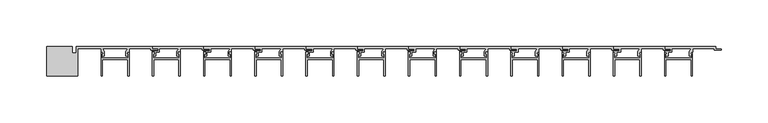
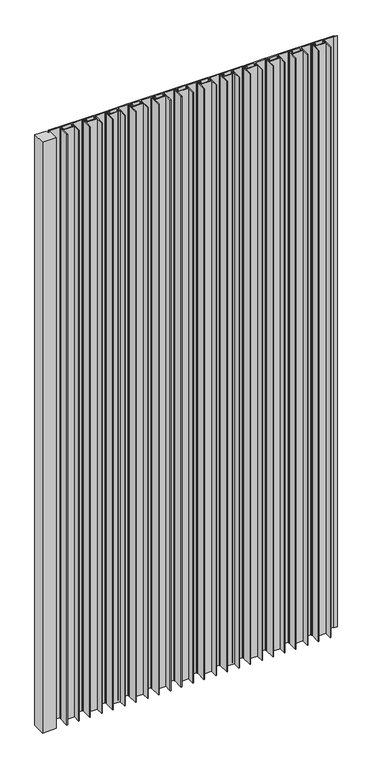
"""IFC4 building model written with IfcOpenShell, lengths in millimetres: proxy geometry, A_GEN_LINE_Small Base_Blade Cap_Corner Angle : A_GEN_LINE_Small Base_Blade Cap_Corner Angle."""

import ifcopenshell
import ifcopenshell.guid

model = None  # the IFC model being written
_history = None  # IfcOwnerHistory: only IFC2X3 demands one
_inside = {}  # id of a spatial element -> (the spatial element, [elements in it])
_under = {}  # id of a project, library or spatial element -> (it, [spatial elements below it])
_declared = {}  # id of a project -> (the project, [libraries it declares])
_typed = {}  # id of a type object -> (the type object, [elements of that type])
_made_of = {}  # id of a material, layer set ... -> (it, [elements and type objects made of it])


def new_model(schema):
    """Start an empty IFC model of exactly this schema.

    Asked for "IFC4X3", IfcOpenShell would pick the latest addendum, in which some entities
    have other attributes; the version numbers below select the first issue.
    IFC2X3 requires an IfcOwnerHistory on every rooted entity: one is made here for all.
    """
    global model, _history
    if schema == "IFC4X3":
        model = ifcopenshell.file(schema_version=(4, 3, 0, 0))
    else:
        model = ifcopenshell.file(schema=schema)
    _inside.clear()
    _under.clear()
    _declared.clear()
    _typed.clear()
    _made_of.clear()
    _history = None
    if model.schema == "IFC2X3":
        org = make("IfcOrganization", Name="unknown")
        user = make(
            "IfcPersonAndOrganization",
            ThePerson=make("IfcPerson", FamilyName="unknown"),
            TheOrganization=org,
        )
        app = make(
            "IfcApplication",
            ApplicationDeveloper=org,
            Version="unknown",
            ApplicationFullName="unknown",
            ApplicationIdentifier="unknown",
        )
        _history = make(
            "IfcOwnerHistory",
            OwningUser=user,
            OwningApplication=app,
            ChangeAction="ADDED",
            CreationDate=0,
        )
    return model


def make(cls, **values):
    """One entity of the class cls with the attributes given. An attribute that is None is left unset."""
    return model.create_entity(
        cls, **{name: value for name, value in values.items() if value is not None}
    )


def rooted(cls, **values):
    """An entity with a GlobalId (a new one), such as an element, a storey or a relation."""
    return make(cls, GlobalId=ifcopenshell.guid.new(), OwnerHistory=_history, **values)


def si_unit(unit_type, name, prefix=None):
    """IfcSIUnit, for example si_unit("LENGTHUNIT", "METRE", prefix="MILLI")."""
    return make("IfcSIUnit", UnitType=unit_type, Prefix=prefix, Name=name)


def assignment(units):
    """IfcUnitAssignment: the units of a project."""
    return None if units is None else make("IfcUnitAssignment", Units=units)


def point(xyz):
    """IfcCartesianPoint."""
    return None if xyz is None else make("IfcCartesianPoint", Coordinates=xyz)


def direction(xyz):
    """IfcDirection."""
    return None if xyz is None else make("IfcDirection", DirectionRatios=xyz)


def frame(location, z_axis=None, x_axis=None):
    """IfcAxis2Placement3D, a coordinate frame: its origin and axes. An axis left out is left unset."""
    return make(
        "IfcAxis2Placement3D",
        Location=point(location),
        Axis=direction(z_axis),
        RefDirection=direction(x_axis),
    )


def origin():
    """The frame at (0, 0, 0) with its axes left unset."""
    return frame((0.0, 0.0, 0.0))


def origin_with_axes():
    """The frame at (0, 0, 0) with the z axis (0, 0, 1) and the x axis (1, 0, 0) written out."""
    return frame((0.0, 0.0, 0.0), z_axis=(0.0, 0.0, 1.0), x_axis=(1.0, 0.0, 0.0))


def place(relative_to, where):
    """IfcLocalPlacement: puts the frame where relative to a parent placement (None: the world)."""
    return make(
        "IfcLocalPlacement", PlacementRelTo=relative_to, RelativePlacement=where
    )


def context(
    kind, dimensions, precision=None, world=None, true_north=None, identifier=None
):
    """IfcGeometricRepresentationContext, for example the 3D "Model" context."""
    return make(
        "IfcGeometricRepresentationContext",
        ContextIdentifier=identifier,
        ContextType=kind,
        CoordinateSpaceDimension=dimensions,
        Precision=precision,
        WorldCoordinateSystem=world,
        TrueNorth=true_north,
    )


def project(units=None, contexts=None):
    """IfcProject with its units and contexts."""
    return rooted(
        "IfcProject",
        Name="project",
        RepresentationContexts=contexts,
        UnitsInContext=assignment(units),
    )


def spatial(cls, under=None, at=None, **own):
    """A site, building, storey or space (cls), placed at a placement, below another one or the project."""
    s = rooted(cls, ObjectPlacement=at, **own)
    if under is not None:
        _under.setdefault(under.id(), (under, []))[1].append(s)
    return s


def polyline(points):
    """IfcPolyline through the points."""
    return make("IfcPolyline", Points=[point(p) for p in points])


def outline(outer, holes=None, kind="AREA"):
    """IfcArbitraryClosedProfileDef: a profile drawn as a closed curve; with holes, ...WithVoids."""
    if holes is None:
        return make("IfcArbitraryClosedProfileDef", ProfileType=kind, OuterCurve=outer)
    return make(
        "IfcArbitraryProfileDefWithVoids",
        ProfileType=kind,
        OuterCurve=outer,
        InnerCurves=holes,
    )


def extrude(swept, where, along, depth):
    """IfcExtrudedAreaSolid: the profile swept, set in the frame where, extruded along a direction by depth."""
    return make(
        "IfcExtrudedAreaSolid",
        SweptArea=swept,
        Position=where,
        ExtrudedDirection=direction(along),
        Depth=depth,
    )


def shape(context_of_items, identifier, shape_type, items):
    """IfcShapeRepresentation: the items that make up one representation, for example the "Body"."""
    return make(
        "IfcShapeRepresentation",
        ContextOfItems=context_of_items,
        RepresentationIdentifier=identifier,
        RepresentationType=shape_type,
        Items=items,
    )


def source(mapping_origin, context_of_items, identifier, shape_type, items):
    """IfcRepresentationMap: a shape defined once, which mapped items show again and again."""
    return make(
        "IfcRepresentationMap",
        MappingOrigin=mapping_origin,
        MappedRepresentation=shape(context_of_items, identifier, shape_type, items),
    )


def transform(
    local_origin,
    x_axis=None,
    y_axis=None,
    z_axis=None,
    scale=None,
    scale2=None,
    scale3=None,
    uniform=True,
):
    """IfcCartesianTransformationOperator3D, or its non-uniform kind. x_axis, y_axis, z_axis: its Axis1, 2, 3."""
    if uniform:
        return make(
            "IfcCartesianTransformationOperator3D",
            Axis1=direction(x_axis),
            Axis2=direction(y_axis),
            LocalOrigin=point(local_origin),
            Scale=scale,
            Axis3=direction(z_axis),
        )
    return make(
        "IfcCartesianTransformationOperator3DnonUniform",
        Axis1=direction(x_axis),
        Axis2=direction(y_axis),
        LocalOrigin=point(local_origin),
        Scale=scale,
        Axis3=direction(z_axis),
        Scale2=scale2,
        Scale3=scale3,
    )


def mapped(mapping_source, mapping_target):
    """IfcMappedItem: shows the shape of a source again, moved by a transform."""
    return make(
        "IfcMappedItem", MappingSource=mapping_source, MappingTarget=mapping_target
    )


def made_of(thing, what):
    """Note that an element or type object is made of a material, layer set ...; save() writes the relation."""
    if what is not None:
        _made_of.setdefault(what.id(), (what, []))[1].append(thing)
    return thing


def element(
    cls,
    number,
    at=None,
    inside=None,
    cuts=None,
    type_object=None,
    material=None,
    context=None,
    identifier="Body",
    shape_type=None,
    held_by="IfcProductDefinitionShape",
    body=None,
    shapes=None,
    **own,
):
    """One element of the class cls, such as IfcWall. Its Tag is "e" and its number.

    at: its placement. inside: the storey or other place that contains it. cuts: it is an
    opening in that element (IfcRelVoidsElement). A single representation is given by context,
    identifier, shape_type and body (its items); several are given by shapes. held_by: the class
    of the entity that holds the representations. save() writes the other relations.
    """
    e = rooted(cls, Tag="e%d" % number, ObjectPlacement=at, **own)
    if body is not None:
        shapes = [shape(context, identifier, shape_type, body)]
    if shapes is not None:
        e.Representation = make(held_by, Representations=shapes)
    if inside is not None:
        _inside.setdefault(inside.id(), (inside, []))[1].append(e)
    if cuts is not None:
        rooted(
            "IfcRelVoidsElement", RelatingBuildingElement=cuts, RelatedOpeningElement=e
        )
    if type_object is not None:
        _typed.setdefault(type_object.id(), (type_object, []))[1].append(e)
    return made_of(e, material)


def aggregate(whole, parts):
    """IfcRelAggregates: a whole, such as a stair, and the parts it consists of."""
    return rooted("IfcRelAggregates", RelatingObject=whole, RelatedObjects=parts)


def save(model, path):
    """Write the relations noted so far, then the file.

    IfcRelAggregates (storeys below a building ...), IfcRelContainedInSpatialStructure (elements
    in a storey), IfcRelDefinesByType, IfcRelAssociatesMaterial and IfcRelDeclares: one each for
    every whole, place, type object, material and project.
    """
    for whole, parts in _under.values():
        aggregate(whole, parts)
    for where, things in _inside.values():
        rooted(
            "IfcRelContainedInSpatialStructure",
            RelatedElements=things,
            RelatingStructure=where,
        )
    for kind, things in _typed.values():
        rooted("IfcRelDefinesByType", RelatedObjects=things, RelatingType=kind)
    for what, things in _made_of.values():
        rooted("IfcRelAssociatesMaterial", RelatedObjects=things, RelatingMaterial=what)
    for by, libraries in _declared.values():
        rooted("IfcRelDeclares", RelatingContext=by, RelatedDefinitions=libraries)
    model.write(path)


def generic_models_a6b40384(model_context):
    return source(origin(), model_context, "Body", "SweptSolid", [
        extrude(outline(polyline([(646.1781195, 0.0), (700.7510139, 0.0), (700.7510139, -2.85), (706.7510139, -2.85), (706.7510139, -4.2), (699.2326588, -4.2), (699.2326588, -2.4), (675.7630914, -2.4), (675.7630914, -6.1021884), (674.6481179, -6.1021884), (673.0595521, -8.4994005), (674.321486, -8.4994005), (674.321486, -10.4818695), (672.11896, -10.4818695), (672.11896, -5.6343123), (674.2180811, -2.4), (653.3976722, -2.4), (653.3976722, -6.1), (649.4072228, -6.1), (649.4072228, -10.4818695), (647.2046967, -10.4818695), (647.2046967, -8.4994005), (648.4666306, -8.4994005), (646.8780648, -6.1021884), (645.7918793, -6.1021884), (645.7918793, -4.9), (652.1976722, -4.9), (652.1976722, -2.7), (646.1781195, -2.7), (646.1781195, 0.0)])), origin_with_axes(), (0.0, 0.0, 1.0), 1500.0),
        extrude(outline(polyline([(591.1781195, 0.0), (645.7510139, 0.0), (645.7510139, -2.85), (651.7510139, -2.85), (651.7510139, -4.2), (644.2326588, -4.2), (644.2326588, -2.4), (620.7630914, -2.4), (620.7630914, -6.1021884), (619.6481179, -6.1021884), (618.0595521, -8.4994005), (619.321486, -8.4994005), (619.321486, -10.4818695), (617.11896, -10.4818695), (617.11896, -5.6343123), (619.2180811, -2.4), (598.3976722, -2.4), (598.3976722, -6.1), (594.4072228, -6.1), (594.4072228, -10.4818695), (592.2046967, -10.4818695), (592.2046967, -8.4994005), (593.4666306, -8.4994005), (591.8780648, -6.1021884), (590.7918793, -6.1021884), (590.7918793, -4.9), (597.1976722, -4.9), (597.1976722, -2.7), (591.1781195, -2.7), (591.1781195, 0.0)])), origin_with_axes(), (0.0, 0.0, 1.0), 1500.0),
        extrude(outline(polyline([(536.1781195, 0.0), (590.7510139, 0.0), (590.7510139, -2.85), (596.7510139, -2.85), (596.7510139, -4.2), (589.2326588, -4.2), (589.2326588, -2.4), (565.7630914, -2.4), (565.7630914, -6.1021884), (564.6481179, -6.1021884), (563.0595521, -8.4994005), (564.321486, -8.4994005), (564.321486, -10.4818695), (562.11896, -10.4818695), (562.11896, -5.6343123), (564.2180811, -2.4), (543.3976722, -2.4), (543.3976722, -6.1), (539.4072228, -6.1), (539.4072228, -10.4818695), (537.2046967, -10.4818695), (537.2046967, -8.4994005), (538.4666306, -8.4994005), (536.8780648, -6.1021884), (535.7918793, -6.1021884), (535.7918793, -4.9), (542.1976722, -4.9), (542.1976722, -2.7), (536.1781195, -2.7), (536.1781195, 0.0)])), origin_with_axes(), (0.0, 0.0, 1.0), 1500.0),
        extrude(outline(polyline([(481.1781195, 0.0), (535.7510139, 0.0), (535.7510139, -2.85), (541.7510139, -2.85), (541.7510139, -4.2), (534.2326588, -4.2), (534.2326588, -2.4), (510.7630914, -2.4), (510.7630914, -6.1021884), (509.6481179, -6.1021884), (508.0595521, -8.4994005), (509.321486, -8.4994005), (509.321486, -10.4818695), (507.11896, -10.4818695), (507.11896, -5.6343123), (509.2180811, -2.4), (488.3976722, -2.4), (488.3976722, -6.1), (484.4072228, -6.1), (484.4072228, -10.4818695), (482.2046967, -10.4818695), (482.2046967, -8.4994005), (483.4666306, -8.4994005), (481.8780648, -6.1021884), (480.7918793, -6.1021884), (480.7918793, -4.9), (487.1976722, -4.9), (487.1976722, -2.7), (481.1781195, -2.7), (481.1781195, 0.0)])), origin_with_axes(), (0.0, 0.0, 1.0), 1500.0),
        extrude(outline(polyline([(645.6756368, -32.0289818), (645.6756368, -6.1), (647.900354, -6.1), (647.900354, -8.3419727), (646.5939572, -8.7617834), (646.5939572, -12.5079436), (674.7573164, -12.5079436), (674.7573164, -8.7374539), (673.5266298, -8.3419727), (673.5266298, -6.1), (675.6756368, -6.1), (675.6756368, -32.0289818), (674.2756368, -32.0289818), (674.2756368, -13.9079436), (647.0756368, -13.9079436), (647.0756368, -32.0289818), (645.6756368, -32.0289818)])), origin_with_axes(), (0.0, 0.0, 1.0), 1500.0),
        extrude(outline(polyline([(9.6853961, 0.0), (9.6853961, -7.0005407), (14.0816796, -7.0005407), (14.0816796, 0.0), (95.7918793, 0.0), (95.7918793, -2.825696), (101.7918793, -2.825696), (101.7918793, -4.175696), (94.2735242, -4.175696), (94.2735242, -2.4), (70.7697169, -2.4), (70.7697169, -6.1021884), (69.6547434, -6.1021884), (68.0661776, -8.4994005), (69.3281115, -8.4994005), (69.3281115, -10.4818695), (67.1255855, -10.4818695), (67.1588687, -5.5238337), (69.2289465, -2.4), (42.3147271, -2.4), (44.3848049, -5.5238337), (44.4180882, -10.4818695), (42.2155621, -10.4818695), (42.2155621, -8.4994005), (43.477496, -8.4994005), (41.8889302, -6.1021884), (40.7739568, -6.1021884), (40.7739568, -2.4), (15.4816796, -2.4), (15.4816796, -31.9534606), (-17.7610639, -31.9534606), (-17.7610639, 0.0), (9.6853961, 0.0)])), origin_with_axes(), (0.0, 0.0, 1.0), 1500.0),
        extrude(outline(polyline([(590.6843823, -32.0289818), (590.6843823, -6.1), (592.9090994, -6.1), (592.9090994, -8.3419727), (591.6027027, -8.7617834), (591.6027027, -12.5079436), (619.7660618, -12.5079436), (619.7660618, -8.7374539), (618.5353753, -8.3419727), (618.5353753, -6.1), (620.6843823, -6.1), (620.6843823, -32.0289818), (619.2843823, -32.0289818), (619.2843823, -13.9079436), (592.0843823, -13.9079436), (592.0843823, -32.0289818), (590.6843823, -32.0289818)])), origin_with_axes(), (0.0, 0.0, 1.0), 1500.0),
        extrude(outline(polyline([(535.6931277, -32.0289818), (535.6931277, -6.1), (537.9178449, -6.1), (537.9178449, -8.3419727), (536.6114482, -8.7617834), (536.6114482, -12.5079436), (564.7748073, -12.5079436), (564.7748073, -8.7374539), (563.5441208, -8.3419727), (563.5441208, -6.1), (565.6931277, -6.1), (565.6931277, -32.0289818), (564.2931277, -32.0289818), (564.2931277, -13.9079436), (537.0931277, -13.9079436), (537.0931277, -32.0289818), (535.6931277, -32.0289818)])), origin_with_axes(), (0.0, 0.0, 1.0), 1500.0),
        extrude(outline(polyline([(480.7018732, -32.0289818), (480.7018732, -6.1), (482.9265903, -6.1), (482.9265903, -8.3419727), (481.6201936, -8.7617834), (481.6201936, -12.5079436), (509.7835527, -12.5079436), (509.7835527, -8.7374539), (508.5528662, -8.3419727), (508.5528662, -6.1), (510.7018732, -6.1), (510.7018732, -32.0289818), (509.3018732, -32.0289818), (509.3018732, -13.9079436), (482.1018732, -13.9079436), (482.1018732, -32.0289818), (480.7018732, -32.0289818)])), origin_with_axes(), (0.0, 0.0, 1.0), 1500.0),
        extrude(outline(polyline([(425.7106186, -32.0289818), (425.7106186, -6.1), (427.9353358, -6.1), (427.9353358, -8.3419727), (426.6289391, -8.7617834), (426.6289391, -12.5079436), (454.7922982, -12.5079436), (454.7922982, -8.7374539), (453.5616117, -8.3419727), (453.5616117, -6.1), (455.7106186, -6.1), (455.7106186, -32.0289818), (454.3106186, -32.0289818), (454.3106186, -13.9079436), (427.1106186, -13.9079436), (427.1106186, -32.0289818), (425.7106186, -32.0289818)])), origin_with_axes(), (0.0, 0.0, 1.0), 1500.0),
        extrude(outline(polyline([(370.7193641, -32.0289818), (370.7193641, -6.1), (372.9440812, -6.1), (372.9440812, -8.3419727), (371.6376845, -8.7617834), (371.6376845, -12.5079436), (399.8010436, -12.5079436), (399.8010436, -8.7374539), (398.5703571, -8.3419727), (398.5703571, -6.1), (400.7193641, -6.1), (400.7193641, -32.0289818), (399.3193641, -32.0289818), (399.3193641, -13.9079436), (372.1193641, -13.9079436), (372.1193641, -32.0289818), (370.7193641, -32.0289818)])), origin_with_axes(), (0.0, 0.0, 1.0), 1500.0),
        extrude(outline(polyline([(315.7281095, -32.0289818), (315.7281095, -6.1), (317.9528267, -6.1), (317.9528267, -8.3419727), (316.64643, -8.7617834), (316.64643, -12.5079436), (344.8097891, -12.5079436), (344.8097891, -8.7374539), (343.5791026, -8.3419727), (343.5791026, -6.1), (345.7281095, -6.1), (345.7281095, -32.0289818), (344.3281095, -32.0289818), (344.3281095, -13.9079436), (317.1281095, -13.9079436), (317.1281095, -32.0289818), (315.7281095, -32.0289818)])), origin_with_axes(), (0.0, 0.0, 1.0), 1500.0),
        extrude(outline(polyline([(260.736855, -32.0289818), (260.736855, -6.1), (262.9615722, -6.1), (262.9615722, -8.3419727), (261.6551754, -8.7617834), (261.6551754, -12.5079436), (289.8185346, -12.5079436), (289.8185346, -8.7374539), (288.587848, -8.3419727), (288.587848, -6.1), (290.736855, -6.1), (290.736855, -32.0289818), (289.336855, -32.0289818), (289.336855, -13.9079436), (262.136855, -13.9079436), (262.136855, -32.0289818), (260.736855, -32.0289818)])), origin_with_axes(), (0.0, 0.0, 1.0), 1500.0),
        extrude(outline(polyline([(205.7456004, -32.0289818), (205.7456004, -6.1), (207.9703176, -6.1), (207.9703176, -8.3419727), (206.6639209, -8.7617834), (206.6639209, -12.5079436), (234.82728, -12.5079436), (234.82728, -8.7374539), (233.5965935, -8.3419727), (233.5965935, -6.1), (235.7456004, -6.1), (235.7456004, -32.0289818), (234.3456004, -32.0289818), (234.3456004, -13.9079436), (207.1456004, -13.9079436), (207.1456004, -32.0289818), (205.7456004, -32.0289818)])), origin_with_axes(), (0.0, 0.0, 1.0), 1500.0),
        extrude(outline(polyline([(150.7543459, -32.0289818), (150.7543459, -6.1), (152.9790631, -6.1), (152.9790631, -8.3419727), (151.6726663, -8.7617834), (151.6726663, -12.5079436), (179.8360255, -12.5079436), (179.8360255, -8.7374539), (178.6053389, -8.3419727), (178.6053389, -6.1), (180.7543459, -6.1), (180.7543459, -32.0289818), (179.3543459, -32.0289818), (179.3543459, -13.9079436), (152.1543459, -13.9079436), (152.1543459, -32.0289818), (150.7543459, -32.0289818)])), origin_with_axes(), (0.0, 0.0, 1.0), 1500.0),
        extrude(outline(polyline([(95.7630914, -32.0289818), (95.7630914, -6.1), (97.9878085, -6.1), (97.9878085, -8.3419727), (96.6814118, -8.7617834), (96.6814118, -12.5079436), (124.8447709, -12.5079436), (124.8447709, -8.7374539), (123.6140844, -8.3419727), (123.6140844, -6.1), (125.7630914, -6.1), (125.7630914, -32.0289818), (124.3630914, -32.0289818), (124.3630914, -13.9079436), (97.1630914, -13.9079436), (97.1630914, -32.0289818), (95.7630914, -32.0289818)])), origin_with_axes(), (0.0, 0.0, 1.0), 1500.0),
        extrude(outline(polyline([(40.7718368, -32.0289818), (40.7718368, -6.1), (42.996554, -6.1), (42.996554, -8.3419727), (41.6901573, -8.7617834), (41.6901573, -12.5079436), (69.8535164, -12.5079436), (69.8535164, -8.7374539), (68.6228299, -8.3419727), (68.6228299, -6.1), (70.7718368, -6.1), (70.7718368, -32.0289818), (69.3718368, -32.0289818), (69.3718368, -13.9079436), (42.1718368, -13.9079436), (42.1718368, -32.0289818), (40.7718368, -32.0289818)])), origin_with_axes(), (0.0, 0.0, 1.0), 1500.0),
        extrude(outline(polyline([(426.1781195, 0.0), (480.7510139, 0.0), (480.7510139, -2.85), (486.7510139, -2.85), (486.7510139, -4.2), (479.2326588, -4.2), (479.2326588, -2.4), (455.7630914, -2.4), (455.7630914, -6.1021884), (454.6481179, -6.1021884), (453.0595521, -8.4994005), (454.321486, -8.4994005), (454.321486, -10.4818695), (452.11896, -10.4818695), (452.11896, -5.6343123), (454.2180811, -2.4), (433.3976722, -2.4), (433.3976722, -6.1), (429.4072228, -6.1), (429.4072228, -10.4818695), (427.2046967, -10.4818695), (427.2046967, -8.4994005), (428.4666306, -8.4994005), (426.8780648, -6.1021884), (425.7918793, -6.1021884), (425.7918793, -4.9), (432.1976722, -4.9), (432.1976722, -2.7), (426.1781195, -2.7), (426.1781195, 0.0)])), origin_with_axes(), (0.0, 0.0, 1.0), 1500.0),
        extrude(outline(polyline([(371.1781195, 0.0), (425.7510139, 0.0), (425.7510139, -2.85), (431.7510139, -2.85), (431.7510139, -4.2), (424.2326588, -4.2), (424.2326588, -2.4), (400.7630914, -2.4), (400.7630914, -6.1021884), (399.6481179, -6.1021884), (398.0595521, -8.4994005), (399.321486, -8.4994005), (399.321486, -10.4818695), (397.11896, -10.4818695), (397.11896, -5.6343123), (399.2180811, -2.4), (378.3976722, -2.4), (378.3976722, -6.1), (374.4072228, -6.1), (374.4072228, -10.4818695), (372.2046967, -10.4818695), (372.2046967, -8.4994005), (373.4666306, -8.4994005), (371.8780648, -6.1021884), (370.7918793, -6.1021884), (370.7918793, -4.9), (377.1976722, -4.9), (377.1976722, -2.7), (371.1781195, -2.7), (371.1781195, 0.0)])), origin_with_axes(), (0.0, 0.0, 1.0), 1500.0),
        extrude(outline(polyline([(316.1781195, 0.0), (370.7510139, 0.0), (370.7510139, -2.85), (376.7510139, -2.85), (376.7510139, -4.2), (369.2326588, -4.2), (369.2326588, -2.4), (345.7630914, -2.4), (345.7630914, -6.1021884), (344.6481179, -6.1021884), (343.0595521, -8.4994005), (344.321486, -8.4994005), (344.321486, -10.4818695), (342.11896, -10.4818695), (342.11896, -5.6343123), (344.2180811, -2.4), (323.3976722, -2.4), (323.3976722, -6.1), (319.4072228, -6.1), (319.4072228, -10.4818695), (317.2046967, -10.4818695), (317.2046967, -8.4994005), (318.4666306, -8.4994005), (316.8780648, -6.1021884), (315.7918793, -6.1021884), (315.7918793, -4.9), (322.1976722, -4.9), (322.1976722, -2.7), (316.1781195, -2.7), (316.1781195, 0.0)])), origin_with_axes(), (0.0, 0.0, 1.0), 1500.0),
        extrude(outline(polyline([(261.1781195, 0.0), (315.7510139, 0.0), (315.7510139, -2.85), (321.7510139, -2.85), (321.7510139, -4.2), (314.2326588, -4.2), (314.2326588, -2.4), (290.7630914, -2.4), (290.7630914, -6.1021884), (289.6481179, -6.1021884), (288.0595521, -8.4994005), (289.321486, -8.4994005), (289.321486, -10.4818695), (287.11896, -10.4818695), (287.11896, -5.6343123), (289.2180811, -2.4), (268.3976722, -2.4), (268.3976722, -6.1), (264.4072228, -6.1), (264.4072228, -10.4818695), (262.2046967, -10.4818695), (262.2046967, -8.4994005), (263.4666306, -8.4994005), (261.8780648, -6.1021884), (260.7918793, -6.1021884), (260.7918793, -4.9), (267.1976722, -4.9), (267.1976722, -2.7), (261.1781195, -2.7), (261.1781195, 0.0)])), origin_with_axes(), (0.0, 0.0, 1.0), 1500.0),
        extrude(outline(polyline([(206.1781195, 0.0), (260.7510139, 0.0), (260.7510139, -2.85), (266.7510139, -2.85), (266.7510139, -4.2), (259.2326588, -4.2), (259.2326588, -2.4), (235.7630914, -2.4), (235.7630914, -6.1021884), (234.6481179, -6.1021884), (233.0595521, -8.4994005), (234.321486, -8.4994005), (234.321486, -10.4818695), (232.11896, -10.4818695), (232.11896, -5.6343123), (234.2180811, -2.4), (213.3976722, -2.4), (213.3976722, -6.1), (209.4072228, -6.1), (209.4072228, -10.4818695), (207.2046967, -10.4818695), (207.2046967, -8.4994005), (208.4666306, -8.4994005), (206.8780648, -6.1021884), (205.7918793, -6.1021884), (205.7918793, -4.9), (212.1976722, -4.9), (212.1976722, -2.7), (206.1781195, -2.7), (206.1781195, 0.0)])), origin_with_axes(), (0.0, 0.0, 1.0), 1500.0),
        extrude(outline(polyline([(151.1781195, 0.0), (205.7510139, 0.0), (205.7510139, -2.85), (211.7510139, -2.85), (211.7510139, -4.2), (204.2326588, -4.2), (204.2326588, -2.4), (180.7630914, -2.4), (180.7630914, -6.1021884), (179.6481179, -6.1021884), (178.0595521, -8.4994005), (179.321486, -8.4994005), (179.321486, -10.4818695), (177.11896, -10.4818695), (177.11896, -5.6343123), (179.2180811, -2.4), (158.3976722, -2.4), (158.3976722, -6.1), (154.4072228, -6.1), (154.4072228, -10.4818695), (152.2046967, -10.4818695), (152.2046967, -8.4994005), (153.4666306, -8.4994005), (151.8780648, -6.1021884), (150.7918793, -6.1021884), (150.7918793, -4.9), (157.1976722, -4.9), (157.1976722, -2.7), (151.1781195, -2.7), (151.1781195, 0.0)])), origin_with_axes(), (0.0, 0.0, 1.0), 1500.0),
        extrude(outline(polyline([(96.1781195, 0.0), (150.7510139, 0.0), (150.7510139, -2.85), (156.7510139, -2.85), (156.7510139, -4.2), (149.2326588, -4.2), (149.2326588, -2.4), (125.7630914, -2.4), (125.7630914, -6.1021884), (124.6481179, -6.1021884), (123.0595521, -8.4994005), (124.321486, -8.4994005), (124.321486, -10.4818695), (122.11896, -10.4818695), (122.11896, -5.6343123), (124.2180811, -2.4), (103.3976722, -2.4), (103.3976722, -6.1), (99.4072228, -6.1), (99.4072228, -10.4818695), (97.2046967, -10.4818695), (97.2046967, -8.4994005), (98.4666306, -8.4994005), (96.8780648, -6.1021884), (95.7918793, -6.1021884), (95.7918793, -4.9), (102.1976722, -4.9), (102.1976722, -2.7), (96.1781195, -2.7), (96.1781195, 0.0)])), origin_with_axes(), (0.0, 0.0, 1.0), 1500.0),
    ])


if __name__ == "__main__":
    model = new_model("IFC4")
    model_context = context("Model", 3, world=origin())
    ifc_project = project(units=[si_unit("LENGTHUNIT", "METRE", prefix="MILLI")], contexts=[model_context])
    site = spatial("IfcSite", under=ifc_project)
    building = spatial("IfcBuilding", under=site)
    placement = place(None, origin())
    generic_models_shape = generic_models_a6b40384(model_context)
    element("IfcBuildingElementProxy", 1, Name="A_GEN_LINE_Small Base_Blade Cap_Corner Angle : A_GEN_LINE_Small Base_Blade Cap_Corner Angle", ObjectType="A_GEN_LINE_Small Base_Blade Cap_Corner Angle : A_GEN_LINE_Small Base_Blade Cap_Corner Angle", at=placement, inside=building, context=model_context, shape_type="MappedRepresentation", body=[
        mapped(generic_models_shape, transform((0.0, 0.0, 0.0), x_axis=(1.0, 0.0, 0.0), y_axis=(0.0, 1.0, 0.0), z_axis=(0.0, 0.0, 1.0))),
    ])
    save(model, "model.ifc")
